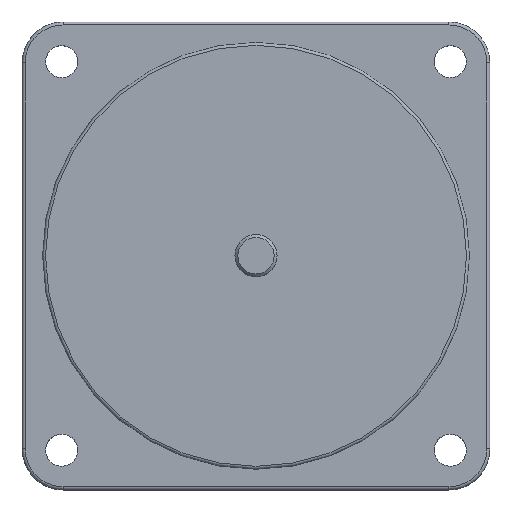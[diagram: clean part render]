
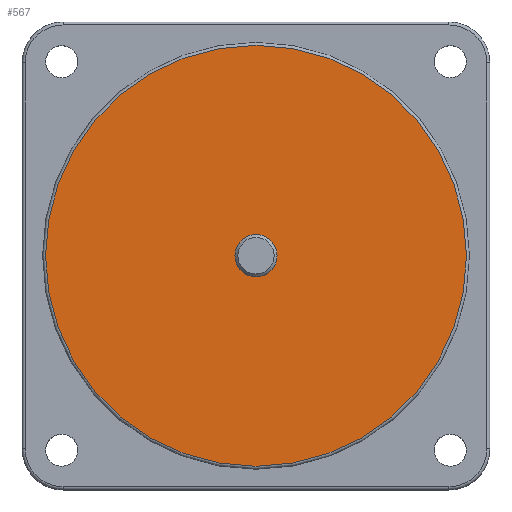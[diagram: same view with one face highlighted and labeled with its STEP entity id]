
A CAD part, top view. The second image highlights one B-rep face of the part: STEP entity #567.
In plain terms, the highlighted planar face has unit normal (0, 0, 1).
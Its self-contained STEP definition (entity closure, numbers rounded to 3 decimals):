
#513=CARTESIAN_POINT('',(36.,0.,34.0));
#514=VERTEX_POINT('',#513);
#515=CARTESIAN_POINT('',(0.0,0.0,34.0));
#516=DIRECTION('',(0.0,0.0,-1.0));
#517=DIRECTION('',(-1.0,0.0,0.0));
#518=AXIS2_PLACEMENT_3D('',#515,#516,#517);
#519=CIRCLE('',#518,36.);
#520=EDGE_CURVE('',#514,#514,#519,.T.);
#548=CARTESIAN_POINT('',(0.0,0.0,34.0));
#549=DIRECTION('',(0.0,0.0,-1.0));
#550=DIRECTION('',(-1.0,0.0,0.0));
#551=AXIS2_PLACEMENT_3D('',#548,#549,#550);
#552=PLANE('',#551);
#553=ORIENTED_EDGE('',*,*,#520,.F.);
#554=EDGE_LOOP('',(#553));
#555=FACE_OUTER_BOUND('',#554,.T.);
#556=CARTESIAN_POINT('',(3.605,0.,34.0));
#557=VERTEX_POINT('',#556);
#558=CARTESIAN_POINT('',(0.0,0.0,34.0));
#559=DIRECTION('',(0.0,0.0,-1.0));
#560=DIRECTION('',(-1.0,0.0,0.0));
#561=AXIS2_PLACEMENT_3D('',#558,#559,#560);
#562=CIRCLE('',#561,3.605);
#563=EDGE_CURVE('',#557,#557,#562,.T.);
#564=ORIENTED_EDGE('',*,*,#563,.T.);
#565=EDGE_LOOP('',(#564));
#566=FACE_BOUND('',#565,.T.);
#567=ADVANCED_FACE('',(#555,#566),#552,.F.);
